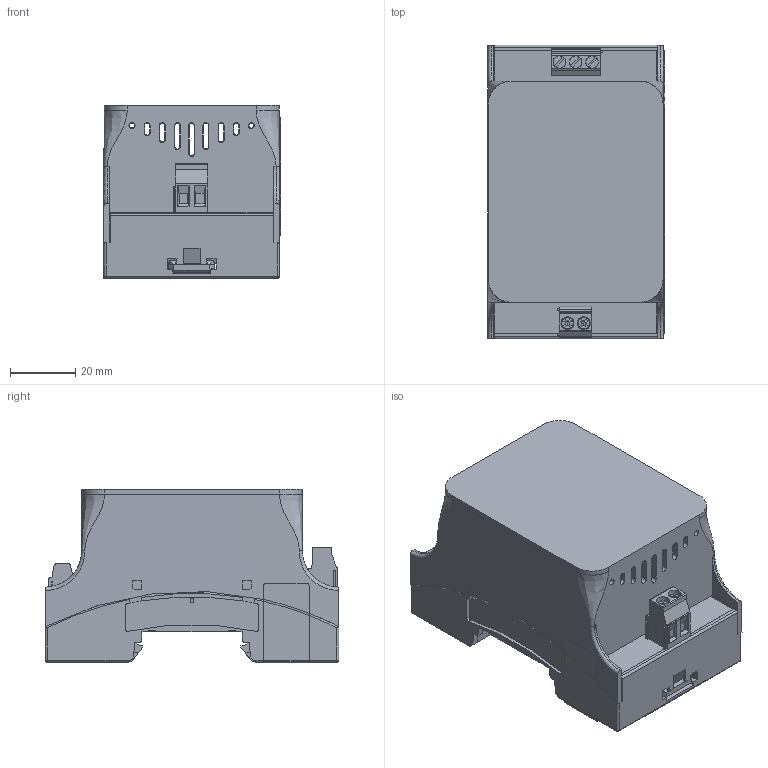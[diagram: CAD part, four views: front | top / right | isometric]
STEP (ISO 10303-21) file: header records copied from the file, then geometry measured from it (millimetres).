
FILE_DESCRIPTION(/* description */ (''),/* implementation_level */ '2;1');
FILE_NAME(/* name */ 'D:\WorkIMT\Project IMT\Флокс-Ф1\v1\3D на сайт\FLOX-F1 3D.stp',/* time_stamp */ '2025-01-24T11:22:28+03:00',/* author */ ('Admin'),/* organization */ (''),/* preprocessor_version */ 'ST-DEVELOPER v17.2',/* originating_system */ 'Autodesk Inventor 2019',/* authorisation */ '');
FILE_SCHEMA (('AUTOMOTIVE_DESIGN { 1 0 10303 214 3 1 1 }'));
Length unit declared in the file: millimetre
Products named in the file (1): MT.FLOX-F1.XX
Bounding box: 54.2 x 89.74 x 53.09 mm (x, y, z)
Volume: 46349.7 mm3; surface area: 62279.5 mm2
Topology: 4 solids, 4 shells, 1230 faces, 3541 edges, 2306 vertices
Faces by surface type: plane 944, cylinder 179, bspline 56, cone 46, torus 5
Full cylindrical faces by diameter (mm): 0.457 x2, 1.2 x18, 1.3 x5, 1.6 x5, 3.8 x3, 3.83 x3, 4 x2
Entity records: 43670 total; most frequent: CARTESIAN_POINT 10757, ORIENTED_EDGE 7074, DIRECTION 6201, EDGE_CURVE 3537, LINE 2809, VECTOR 2809, VERTEX_POINT 2306, AXIS2_PLACEMENT_3D 1696
